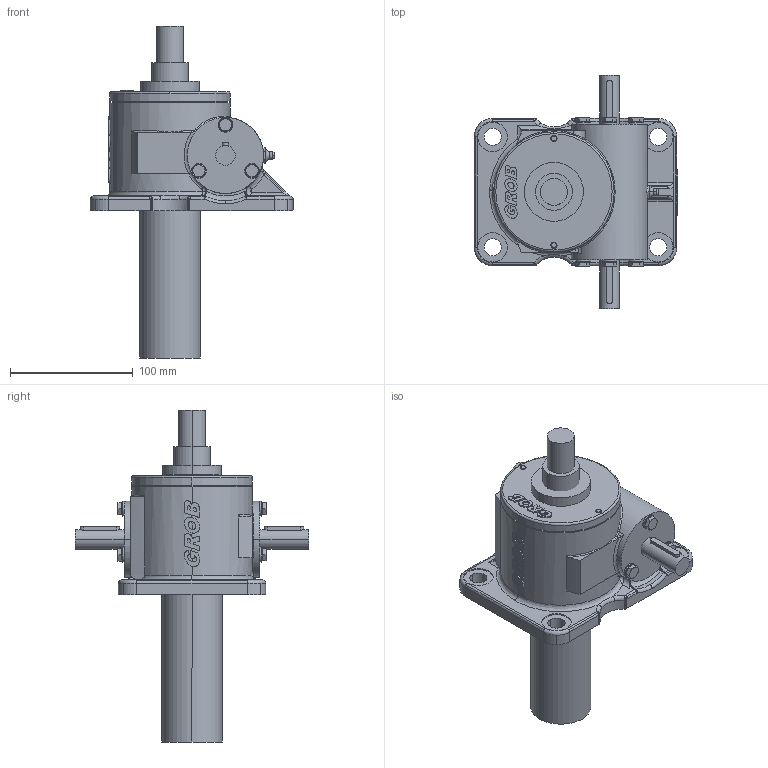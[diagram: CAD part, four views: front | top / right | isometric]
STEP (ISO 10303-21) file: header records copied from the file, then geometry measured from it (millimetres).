
FILE_DESCRIPTION(('STEP AP203'),'1');
FILE_NAME('mc2_5-gn-f-1f-ge-0100-0000-tr30x6-ab-mg0-o_ohne.stp','2023-12-18T13:27:47',('TraceParts'),('TraceParts S.A.'),'Spatial InterOp 3D',' ',' ');
FILE_SCHEMA(('CONFIG_CONTROL_DESIGN'));
Length unit declared in the file: millimetre
Products named in the file (1): 1
Bounding box: 165.9 x 190 x 270.5 mm (x, y, z)
Volume: 1537381.5 mm3; surface area: 139865.9 mm2
Topology: 3 solids, 3 shells, 699 faces, 1815 edges, 1144 vertices
Faces by surface type: cylinder 342, plane 204, cone 82, bspline 49, torus 16, sphere 6
Entity records: 23867 total; most frequent: CARTESIAN_POINT 6891, DIRECTION 3614, ORIENTED_EDGE 3590, EDGE_CURVE 1795, AXIS2_PLACEMENT_3D 1432, VERTEX_POINT 1144, EDGE_LOOP 753, LINE 750
